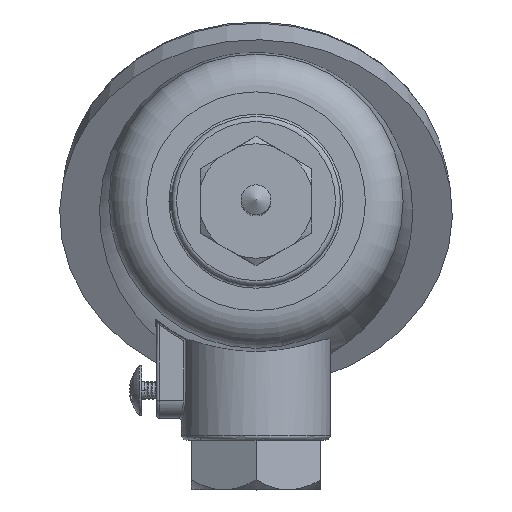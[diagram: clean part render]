
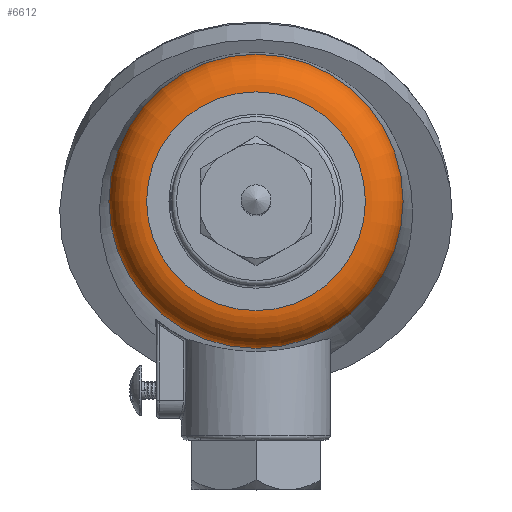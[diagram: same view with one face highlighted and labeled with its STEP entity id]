
A CAD part, top view. The second image highlights one B-rep face of the part: STEP entity #6612.
In plain terms, the highlighted toroidal (fillet/blend) face has major radius 22 mm and minor radius 7.622 mm.
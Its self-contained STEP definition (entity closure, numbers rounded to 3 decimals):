
#430 = CARTESIAN_POINT ( 'NONE',  ( 0., -22., -25.6 ) ) ;
#844 = EDGE_LOOP ( 'NONE', ( #6631 ) ) ;
#973 = CARTESIAN_POINT ( 'NONE',  ( 0., 0., -32.6 ) ) ;
#1355 = DIRECTION ( 'NONE',  ( 0., -1., 0. ) ) ;
#1395 = DIRECTION ( 'NONE',  ( 0., 0., 1. ) ) ;
#1466 = DIRECTION ( 'NONE',  ( 0., 0., 1. ) ) ;
#2012 = EDGE_CURVE ( 'NONE', #2710, #2710, #7570, .T. ) ;
#2710 = VERTEX_POINT ( 'NONE', #3952 ) ;
#3109 = FACE_OUTER_BOUND ( 'NONE', #5774, .T. ) ;
#3382 = AXIS2_PLACEMENT_3D ( 'NONE', #7844, #1466, #5335 ) ;
#3797 = CIRCLE ( 'NONE', #3382, 22. ) ;
#3952 = CARTESIAN_POINT ( 'NONE',  ( 0., -29.597, -32.6 ) ) ;
#4546 = CARTESIAN_POINT ( 'NONE',  ( 0., 0., -33.222 ) ) ;
#4705 = TOROIDAL_SURFACE ( 'NONE', #5793, 22., 7.622 ) ;
#5019 = ORIENTED_EDGE ( 'NONE', *, *, #7530, .F. ) ;
#5335 = DIRECTION ( 'NONE',  ( 0., -1., 0. ) ) ;
#5557 = DIRECTION ( 'NONE',  ( 0., 0., 1. ) ) ;
#5598 = DIRECTION ( 'NONE',  ( 0., -1., 0. ) ) ;
#5638 = VERTEX_POINT ( 'NONE', #430 ) ;
#5774 = EDGE_LOOP ( 'NONE', ( #5019 ) ) ;
#5793 = AXIS2_PLACEMENT_3D ( 'NONE', #4546, #1395, #1355 ) ;
#6612 = ADVANCED_FACE ( 'NONE', ( #6987, #3109 ), #4705, .T. ) ;
#6631 = ORIENTED_EDGE ( 'NONE', *, *, #2012, .T. ) ;
#6987 = FACE_OUTER_BOUND ( 'NONE', #844, .T. ) ;
#7530 = EDGE_CURVE ( 'NONE', #5638, #5638, #3797, .T. ) ;
#7570 = CIRCLE ( 'NONE', #7842, 29.597 ) ;
#7842 = AXIS2_PLACEMENT_3D ( 'NONE', #973, #5557, #5598 ) ;
#7844 = CARTESIAN_POINT ( 'NONE',  ( 0., 0., -25.6 ) ) ;
